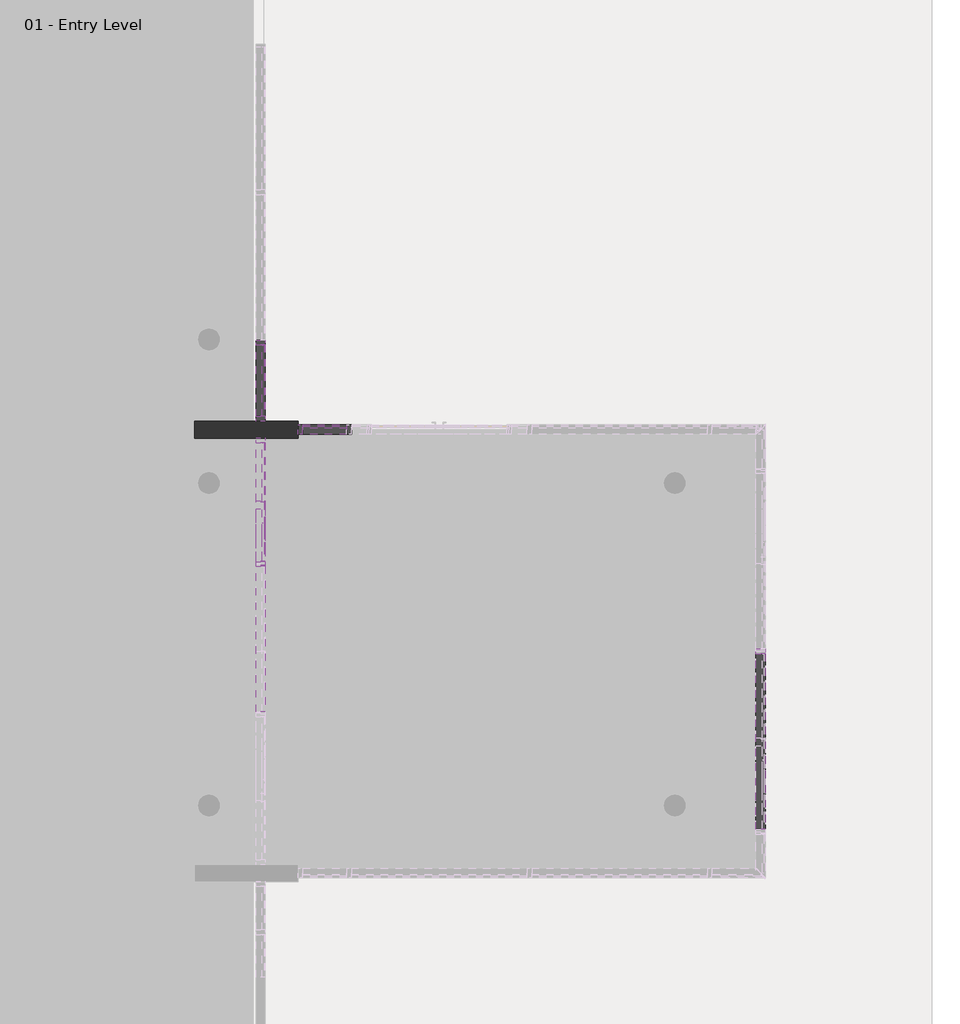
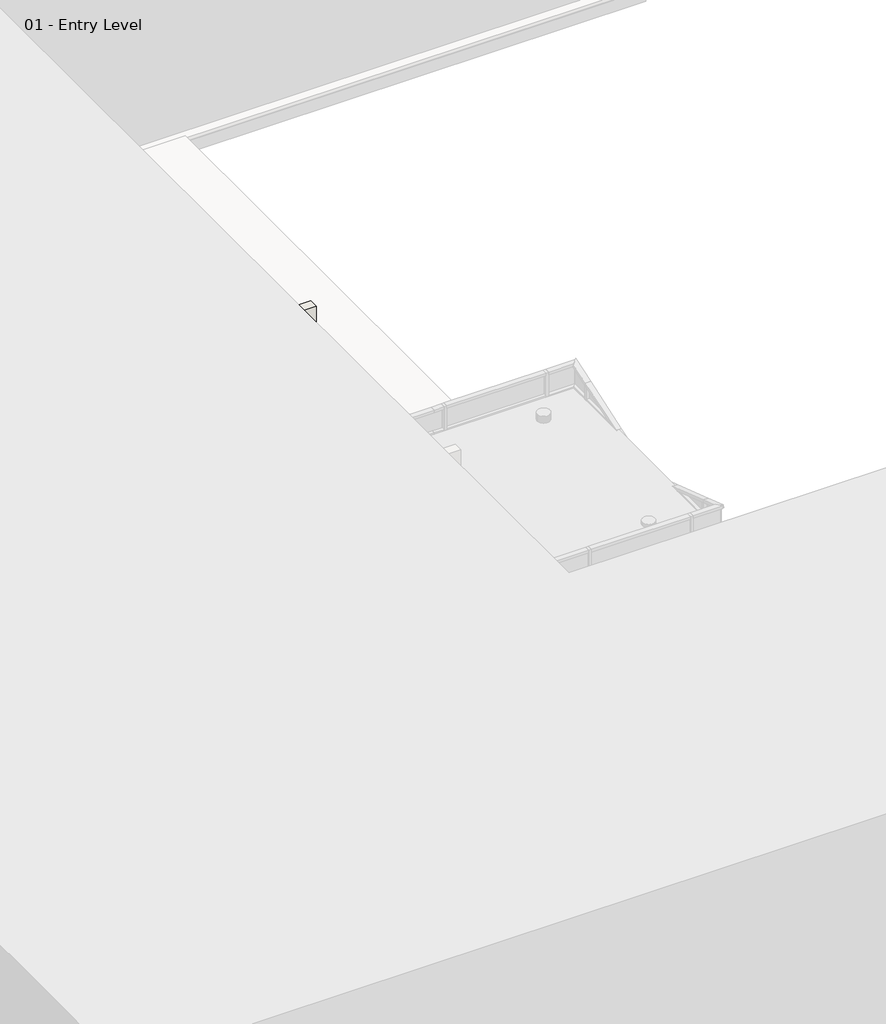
# One storey, part 15 of 35: 95 members, 25 plates, 1 wall.
"""IFC4 building model written with IfcOpenShell, lengths in millimetres."""

from ifc_helpers import new_model, si_unit, origin, origin_with_axes, place, context, project, spatial, polyline, outline, extrude, transform, mapped, element, save
from components import member_2b49869a, member_75074519, member_391b434c, member_9e90ae50, member_6f7cbf6b, member_280eb951, member_97732064, member_4efea63f, member_b0570460, member_a66a3142, member_c840947a, member_9193c932, member_18e22e2d, member_6e77e263, member_47bfaf8a, member_89bfb2f9, member_f4359540, member_5aa65f11, member_b5354135, member_c327c56d, member_2eb7018d, member_80bb9b3a, member_02b8d6b6, system_panel_glazed_f9d9f547, system_panel_glazed_3c16f4b8, system_panel_glazed_f6fca0b1, system_panel_glazed_f30ba6ae, system_panel_glazed_bfb2913e, system_panel_glazed_9f006979, system_panel_glazed_0805a858, system_panel_glazed_439dd39a, system_panel_glazed_65392b54

model = new_model("IFC4")

# Units and contexts
model_context = context("Model", 3, world=origin())
ifc_project = project(units=[si_unit("LENGTHUNIT", "METRE", prefix="MILLI")], contexts=[model_context])

# Site, building, storey
site = spatial("IfcSite", under=ifc_project)
building = spatial("IfcBuilding", under=site)
storey = spatial("IfcBuildingStorey", under=building, Name="01 - Entry Level", Elevation=0.0)

# Members
placement = place(None, origin())
member_shape = member_2b49869a(model_context)
element("IfcMember", 1, ObjectType="Rectangular Mullion : 2.5\" x 5\" rectangular", at=placement, inside=storey, context=model_context, shape_type="MappedRepresentation", body=[
    mapped(member_shape, transform((17184.0207476, 23720.35, 9753.6), x_axis=(0.0, 1.0, 0.0), y_axis=(1.0, 0.0, 0.0), z_axis=(0.0, 0.0, -1.0))),
])
element("IfcMember", 2, ObjectType="Rectangular Mullion : 2.5\" x 5\" rectangular", at=placement, inside=storey, context=model_context, shape_type="MappedRepresentation", body=[
    mapped(member_shape, transform((17184.0207476, 20729.5, 9753.6), x_axis=(0.0, 1.0, 0.0), y_axis=(1.0, 0.0, 0.0), z_axis=(0.0, 0.0, -1.0))),
])
member_2_shape = member_75074519(model_context)
element("IfcMember", 3, ObjectType="Rectangular Mullion : 2.5\" x 5\" rectangular", at=placement, inside=storey, context=model_context, shape_type="MappedRepresentation", body=[
    mapped(member_2_shape, transform((17184.0207476, 22659.9, 10972.8), x_axis=(0.0, -1.0, 0.0), y_axis=(1.0, 0.0, 0.0), z_axis=(0.0, 0.0, 1.0))),
])
element("IfcMember", 4, ObjectType="Rectangular Mullion : 2.5\" x 5\" rectangular", at=placement, inside=storey, context=model_context, shape_type="MappedRepresentation", body=[
    mapped(member_2_shape, transform((17184.0207476, 22431.3, 9753.6), x_axis=(0.0, 1.0, 0.0), y_axis=(1.0, 0.0, 0.0), z_axis=(0.0, 0.0, -1.0))),
])
member_3_shape = member_391b434c(model_context)
element("IfcMember", 5, ObjectType="Rectangular Mullion : 2.5\" x 5\" rectangular", at=placement, inside=storey, context=model_context, shape_type="MappedRepresentation", body=[
    mapped(member_3_shape, transform((17184.0207476, 20697.75, 10972.8), x_axis=(0.0, 0.0, 1.0), y_axis=(1.0, 0.0, 0.0), z_axis=(0.0, 1.0, 0.0))),
])
element("IfcMember", 6, ObjectType="Rectangular Mullion : 2.5\" x 5\" rectangular", at=placement, inside=storey, context=model_context, shape_type="MappedRepresentation", body=[
    mapped(member_3_shape, transform((17184.0207476, 23752.1, 0.0), x_axis=(0.0, 0.0, -1.0), y_axis=(1.0, 0.0, 0.0), z_axis=(0.0, -1.0, 0.0))),
])
member_4_shape = member_9e90ae50(model_context)
element("IfcMember", 7, ObjectType="Rectangular Mullion : 2.5\" x 5\" rectangular", at=placement, inside=storey, context=model_context, shape_type="MappedRepresentation", body=[
    mapped(member_4_shape, transform((17184.0207476, 20697.75, 7315.2), x_axis=(0.0, 0.0, 1.0), y_axis=(1.0, 0.0, 0.0), z_axis=(0.0, 1.0, 0.0))),
])
element("IfcMember", 8, ObjectType="Rectangular Mullion : 2.5\" x 5\" rectangular", at=placement, inside=storey, context=model_context, shape_type="MappedRepresentation", body=[
    mapped(member_4_shape, transform((17184.0207476, 20697.75, 8534.4), x_axis=(0.0, 0.0, 1.0), y_axis=(1.0, 0.0, 0.0), z_axis=(0.0, 1.0, 0.0))),
])
element("IfcMember", 9, ObjectType="Rectangular Mullion : 2.5\" x 5\" rectangular", at=placement, inside=storey, context=model_context, shape_type="MappedRepresentation", body=[
    mapped(member_4_shape, transform((17184.0207476, 20697.75, 9753.6), x_axis=(0.0, 0.0, 1.0), y_axis=(1.0, 0.0, 0.0), z_axis=(0.0, 1.0, 0.0))),
])
element("IfcMember", 10, ObjectType="Rectangular Mullion : 2.5\" x 5\" rectangular", at=placement, inside=storey, context=model_context, shape_type="MappedRepresentation", body=[
    mapped(member_shape, transform((17184.0207476, 23720.35, 0.0), x_axis=(0.0, 1.0, 0.0), y_axis=(1.0, 0.0, 0.0), z_axis=(0.0, 0.0, -1.0))),
])
element("IfcMember", 11, ObjectType="Rectangular Mullion : 2.5\" x 5\" rectangular", at=placement, inside=storey, context=model_context, shape_type="MappedRepresentation", body=[
    mapped(member_shape, transform((17184.0207476, 23720.35, 1219.2), x_axis=(0.0, 1.0, 0.0), y_axis=(1.0, 0.0, 0.0), z_axis=(0.0, 0.0, -1.0))),
])
element("IfcMember", 12, ObjectType="Rectangular Mullion : 2.5\" x 5\" rectangular", at=placement, inside=storey, context=model_context, shape_type="MappedRepresentation", body=[
    mapped(member_shape, transform((17184.0207476, 23720.35, 2438.4), x_axis=(0.0, 1.0, 0.0), y_axis=(1.0, 0.0, 0.0), z_axis=(0.0, 0.0, -1.0))),
])
element("IfcMember", 13, ObjectType="Rectangular Mullion : 2.5\" x 5\" rectangular", at=placement, inside=storey, context=model_context, shape_type="MappedRepresentation", body=[
    mapped(member_shape, transform((17184.0207476, 23720.35, 3657.6), x_axis=(0.0, 1.0, 0.0), y_axis=(1.0, 0.0, 0.0), z_axis=(0.0, 0.0, -1.0))),
])
element("IfcMember", 14, ObjectType="Rectangular Mullion : 2.5\" x 5\" rectangular", at=placement, inside=storey, context=model_context, shape_type="MappedRepresentation", body=[
    mapped(member_shape, transform((17184.0207476, 23720.35, 4876.8), x_axis=(0.0, 1.0, 0.0), y_axis=(1.0, 0.0, 0.0), z_axis=(0.0, 0.0, -1.0))),
])
element("IfcMember", 15, ObjectType="Rectangular Mullion : 2.5\" x 5\" rectangular", at=placement, inside=storey, context=model_context, shape_type="MappedRepresentation", body=[
    mapped(member_shape, transform((17184.0207476, 23720.35, 6096.0), x_axis=(0.0, 1.0, 0.0), y_axis=(1.0, 0.0, 0.0), z_axis=(0.0, 0.0, -1.0))),
])
element("IfcMember", 16, ObjectType="Rectangular Mullion : 2.5\" x 5\" rectangular", at=placement, inside=storey, context=model_context, shape_type="MappedRepresentation", body=[
    mapped(member_shape, transform((17184.0207476, 23720.35, 7315.2), x_axis=(0.0, 1.0, 0.0), y_axis=(1.0, 0.0, 0.0), z_axis=(0.0, 0.0, -1.0))),
])
element("IfcMember", 17, ObjectType="Rectangular Mullion : 2.5\" x 5\" rectangular", at=placement, inside=storey, context=model_context, shape_type="MappedRepresentation", body=[
    mapped(member_shape, transform((17184.0207476, 23720.35, 8534.4), x_axis=(0.0, 1.0, 0.0), y_axis=(1.0, 0.0, 0.0), z_axis=(0.0, 0.0, -1.0))),
])
element("IfcMember", 18, ObjectType="Rectangular Mullion : 2.5\" x 5\" rectangular", at=placement, inside=storey, context=model_context, shape_type="MappedRepresentation", body=[
    mapped(member_shape, transform((17184.0207476, 20729.5, 7315.2), x_axis=(0.0, 1.0, 0.0), y_axis=(1.0, 0.0, 0.0), z_axis=(0.0, 0.0, -1.0))),
])
element("IfcMember", 19, ObjectType="Rectangular Mullion : 2.5\" x 5\" rectangular", at=placement, inside=storey, context=model_context, shape_type="MappedRepresentation", body=[
    mapped(member_shape, transform((17184.0207476, 20729.5, 8534.4), x_axis=(0.0, 1.0, 0.0), y_axis=(1.0, 0.0, 0.0), z_axis=(0.0, 0.0, -1.0))),
])
member_5_shape = member_6f7cbf6b(model_context)
element("IfcMember", 20, ObjectType="Rectangular Mullion : 2.5\" x 5\" rectangular", at=placement, inside=storey, context=model_context, shape_type="MappedRepresentation", body=[
    mapped(member_5_shape, transform((17184.0207476, 22367.8, 10972.8), x_axis=(0.0, 0.0, 1.0), y_axis=(1.0, 0.0, 0.0), z_axis=(0.0, 1.0, 0.0))),
])
member_6_shape = member_280eb951(model_context)
element("IfcMember", 21, ObjectType="Rectangular Mullion : 2.5\" x 5\" rectangular", at=placement, inside=storey, context=model_context, shape_type="MappedRepresentation", body=[
    mapped(member_6_shape, transform((17184.0207476, 20729.5, 7031.1207436), x_axis=(0.0, 0.31622776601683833, -0.9486832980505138), y_axis=(1.0, 0.0, 0.0), z_axis=(0.0, -0.9486832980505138, -0.31622776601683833))),
])
member_7_shape = member_97732064(model_context)
element("IfcMember", 22, ObjectType="Rectangular Mullion : 2.5\" x 5\" rectangular", at=placement, inside=storey, context=model_context, shape_type="MappedRepresentation", body=[
    mapped(member_7_shape, transform((17184.0207476, 21581.7377692, 7315.2), x_axis=(0.0, 0.3162277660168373, -0.9486832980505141), y_axis=(1.0, 0.0, 0.0), z_axis=(0.0, -0.948683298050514, -0.3162277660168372))),
])
member_8_shape = member_4efea63f(model_context)
element("IfcMember", 23, ObjectType="Rectangular Mullion : 2.5\" x 5\" rectangular", at=placement, inside=storey, context=model_context, shape_type="MappedRepresentation", body=[
    mapped(member_8_shape, transform((17184.0207476, 21581.7377692, 7315.2), x_axis=(0.0, 0.0, 1.0), y_axis=(1.0, 0.0, 0.0), z_axis=(0.0, 1.0, 0.0))),
])
member_9_shape = member_b0570460(model_context)
element("IfcMember", 24, ObjectType="Rectangular Mullion : 2.5\" x 5\" rectangular", at=placement, inside=storey, context=model_context, shape_type="MappedRepresentation", body=[
    mapped(member_9_shape, transform((17184.0207476, 22367.8, 8534.4), x_axis=(0.0, 0.0, 1.0), y_axis=(1.0, 0.0, 0.0), z_axis=(0.0, 1.0, 0.0))),
])
element("IfcMember", 25, ObjectType="Rectangular Mullion : 2.5\" x 5\" rectangular", at=placement, inside=storey, context=model_context, shape_type="MappedRepresentation", body=[
    mapped(member_9_shape, transform((17184.0207476, 22367.8, 9753.6), x_axis=(0.0, 0.0, 1.0), y_axis=(1.0, 0.0, 0.0), z_axis=(0.0, 1.0, 0.0))),
])
member_10_shape = member_a66a3142(model_context)
element("IfcMember", 26, ObjectType="Rectangular Mullion : 2.5\" x 5\" rectangular", at=placement, inside=storey, context=model_context, shape_type="MappedRepresentation", body=[
    mapped(member_10_shape, transform((17184.0207476, 20729.5, 7031.1207436), x_axis=(0.0, 1.0, 0.0), y_axis=(1.0, 0.0, 0.0), z_axis=(0.0, 0.0, -1.0))),
])
member_11_shape = member_c840947a(model_context)
element("IfcMember", 27, ObjectType="Rectangular Mullion : 2.5\" x 5\" rectangular", at=placement, inside=storey, context=model_context, shape_type="MappedRepresentation", body=[
    mapped(member_11_shape, transform((17184.0207476, 22431.3, 7598.3874103), x_axis=(0.0, 1.0, 0.0), y_axis=(1.0, 0.0, 0.0), z_axis=(0.0, 0.0, -1.0))),
])
element("IfcMember", 28, ObjectType="Rectangular Mullion : 2.5\" x 5\" rectangular", at=placement, inside=storey, context=model_context, shape_type="MappedRepresentation", body=[
    mapped(member_2_shape, transform((17184.0207476, 22431.3, 8534.4), x_axis=(0.0, 1.0, 0.0), y_axis=(1.0, 0.0, 0.0), z_axis=(0.0, 0.0, -1.0))),
])
element("IfcMember", 29, ObjectType="Rectangular Mullion : 2.5\" x 5\" rectangular", at=placement, inside=storey, context=model_context, shape_type="MappedRepresentation", body=[
    mapped(member_2_shape, transform((17184.0207476, 22659.9, 1219.2), x_axis=(0.0, -1.0, 0.0), y_axis=(1.0, 0.0, 0.0), z_axis=(0.0, 0.0, 1.0))),
])
element("IfcMember", 30, ObjectType="Rectangular Mullion : 2.5\" x 5\" rectangular", at=placement, inside=storey, context=model_context, shape_type="MappedRepresentation", body=[
    mapped(member_2_shape, transform((17184.0207476, 22659.9, 2438.4), x_axis=(0.0, -1.0, 0.0), y_axis=(1.0, 0.0, 0.0), z_axis=(0.0, 0.0, 1.0))),
])
element("IfcMember", 31, ObjectType="Rectangular Mullion : 2.5\" x 5\" rectangular", at=placement, inside=storey, context=model_context, shape_type="MappedRepresentation", body=[
    mapped(member_2_shape, transform((17184.0207476, 22659.9, 3657.6), x_axis=(0.0, -1.0, 0.0), y_axis=(1.0, 0.0, 0.0), z_axis=(0.0, 0.0, 1.0))),
])
element("IfcMember", 32, ObjectType="Rectangular Mullion : 2.5\" x 5\" rectangular", at=placement, inside=storey, context=model_context, shape_type="MappedRepresentation", body=[
    mapped(member_2_shape, transform((17184.0207476, 22659.9, 4876.8), x_axis=(0.0, -1.0, 0.0), y_axis=(1.0, 0.0, 0.0), z_axis=(0.0, 0.0, 1.0))),
])
element("IfcMember", 33, ObjectType="Rectangular Mullion : 2.5\" x 5\" rectangular", at=placement, inside=storey, context=model_context, shape_type="MappedRepresentation", body=[
    mapped(member_2_shape, transform((17184.0207476, 22659.9, 6096.0), x_axis=(0.0, -1.0, 0.0), y_axis=(1.0, 0.0, 0.0), z_axis=(0.0, 0.0, 1.0))),
])
element("IfcMember", 34, ObjectType="Rectangular Mullion : 2.5\" x 5\" rectangular", at=placement, inside=storey, context=model_context, shape_type="MappedRepresentation", body=[
    mapped(member_2_shape, transform((17184.0207476, 22659.9, 7315.2), x_axis=(0.0, -1.0, 0.0), y_axis=(1.0, 0.0, 0.0), z_axis=(0.0, 0.0, 1.0))),
])
element("IfcMember", 35, ObjectType="Rectangular Mullion : 2.5\" x 5\" rectangular", at=placement, inside=storey, context=model_context, shape_type="MappedRepresentation", body=[
    mapped(member_2_shape, transform((17184.0207476, 22659.9, 8534.4), x_axis=(0.0, -1.0, 0.0), y_axis=(1.0, 0.0, 0.0), z_axis=(0.0, 0.0, 1.0))),
])
element("IfcMember", 36, ObjectType="Rectangular Mullion : 2.5\" x 5\" rectangular", at=placement, inside=storey, context=model_context, shape_type="MappedRepresentation", body=[
    mapped(member_2_shape, transform((17184.0207476, 22659.9, 9753.6), x_axis=(0.0, -1.0, 0.0), y_axis=(1.0, 0.0, 0.0), z_axis=(0.0, 0.0, 1.0))),
])
member_12_shape = member_9193c932(model_context)
element("IfcMember", 37, ObjectType="Rectangular Mullion : 2.5\" x 5\" rectangular", at=placement, inside=storey, context=model_context, shape_type="MappedRepresentation", body=[
    mapped(member_12_shape, transform((17184.0207476, 23688.6, 10972.8), x_axis=(0.0, 0.0, 1.0), y_axis=(1.0, 0.0, 0.0), z_axis=(0.0, 1.0, 0.0))),
])
element("IfcMember", 38, ObjectType="Rectangular Mullion : 2.5\" x 5\" rectangular", at=placement, inside=storey, context=model_context, shape_type="MappedRepresentation", body=[
    mapped(member_12_shape, transform((17184.0207476, 22723.4, 0.0), x_axis=(0.0, 0.0, -1.0), y_axis=(1.0, 0.0, 0.0), z_axis=(0.0, -1.0, 0.0))),
])
member_13_shape = member_18e22e2d(model_context)
element("IfcMember", 39, ObjectType="Rectangular Mullion : 2.5\" x 5\" rectangular", at=placement, inside=storey, context=model_context, shape_type="MappedRepresentation", body=[
    mapped(member_13_shape, transform((17184.0207476, 23688.6, 1219.2), x_axis=(0.0, 0.0, 1.0), y_axis=(1.0, 0.0, 0.0), z_axis=(0.0, 1.0, 0.0))),
])
element("IfcMember", 40, ObjectType="Rectangular Mullion : 2.5\" x 5\" rectangular", at=placement, inside=storey, context=model_context, shape_type="MappedRepresentation", body=[
    mapped(member_13_shape, transform((17184.0207476, 23688.6, 2438.4), x_axis=(0.0, 0.0, 1.0), y_axis=(1.0, 0.0, 0.0), z_axis=(0.0, 1.0, 0.0))),
])
element("IfcMember", 41, ObjectType="Rectangular Mullion : 2.5\" x 5\" rectangular", at=placement, inside=storey, context=model_context, shape_type="MappedRepresentation", body=[
    mapped(member_13_shape, transform((17184.0207476, 23688.6, 3657.6), x_axis=(0.0, 0.0, 1.0), y_axis=(1.0, 0.0, 0.0), z_axis=(0.0, 1.0, 0.0))),
])
element("IfcMember", 42, ObjectType="Rectangular Mullion : 2.5\" x 5\" rectangular", at=placement, inside=storey, context=model_context, shape_type="MappedRepresentation", body=[
    mapped(member_13_shape, transform((17184.0207476, 23688.6, 4876.8), x_axis=(0.0, 0.0, 1.0), y_axis=(1.0, 0.0, 0.0), z_axis=(0.0, 1.0, 0.0))),
])
element("IfcMember", 43, ObjectType="Rectangular Mullion : 2.5\" x 5\" rectangular", at=placement, inside=storey, context=model_context, shape_type="MappedRepresentation", body=[
    mapped(member_13_shape, transform((17184.0207476, 23688.6, 6096.0), x_axis=(0.0, 0.0, 1.0), y_axis=(1.0, 0.0, 0.0), z_axis=(0.0, 1.0, 0.0))),
])
element("IfcMember", 44, ObjectType="Rectangular Mullion : 2.5\" x 5\" rectangular", at=placement, inside=storey, context=model_context, shape_type="MappedRepresentation", body=[
    mapped(member_13_shape, transform((17184.0207476, 23688.6, 7315.2), x_axis=(0.0, 0.0, 1.0), y_axis=(1.0, 0.0, 0.0), z_axis=(0.0, 1.0, 0.0))),
])
element("IfcMember", 45, ObjectType="Rectangular Mullion : 2.5\" x 5\" rectangular", at=placement, inside=storey, context=model_context, shape_type="MappedRepresentation", body=[
    mapped(member_13_shape, transform((17184.0207476, 23688.6, 8534.4), x_axis=(0.0, 0.0, 1.0), y_axis=(1.0, 0.0, 0.0), z_axis=(0.0, 1.0, 0.0))),
])
element("IfcMember", 46, ObjectType="Rectangular Mullion : 2.5\" x 5\" rectangular", at=placement, inside=storey, context=model_context, shape_type="MappedRepresentation", body=[
    mapped(member_13_shape, transform((17184.0207476, 23688.6, 9753.6), x_axis=(0.0, 0.0, 1.0), y_axis=(1.0, 0.0, 0.0), z_axis=(0.0, 1.0, 0.0))),
])
member_14_shape = member_6e77e263(model_context)
element("IfcMember", 47, ObjectType="Rectangular Mullion : 2.5\" x 5\" rectangular", at=placement, inside=storey, context=model_context, shape_type="MappedRepresentation", body=[
    mapped(member_14_shape, transform((18379.5615197, 22545.6, 0.0), x_axis=(-1.0, 0.0, 0.0), y_axis=(0.0, 1.0, 0.0), z_axis=(0.0, 0.0, -1.0))),
])
element("IfcMember", 48, ObjectType="Rectangular Mullion : 2.5\" x 5\" rectangular", at=placement, inside=storey, context=model_context, shape_type="MappedRepresentation", body=[
    mapped(member_14_shape, transform((18379.5615197, 22545.6, 609.6), x_axis=(-1.0, 0.0, 0.0), y_axis=(0.0, 1.0, 0.0), z_axis=(0.0, 0.0, -1.0))),
])
element("IfcMember", 49, ObjectType="Rectangular Mullion : 2.5\" x 5\" rectangular", at=placement, inside=storey, context=model_context, shape_type="MappedRepresentation", body=[
    mapped(member_14_shape, transform((18379.5615197, 22545.6, 1219.2), x_axis=(-1.0, 0.0, 0.0), y_axis=(0.0, 1.0, 0.0), z_axis=(0.0, 0.0, -1.0))),
])
element("IfcMember", 50, ObjectType="Rectangular Mullion : 2.5\" x 5\" rectangular", at=placement, inside=storey, context=model_context, shape_type="MappedRepresentation", body=[
    mapped(member_14_shape, transform((18379.5615197, 22545.6, 2438.4), x_axis=(-1.0, 0.0, 0.0), y_axis=(0.0, 1.0, 0.0), z_axis=(0.0, 0.0, -1.0))),
])
element("IfcMember", 51, ObjectType="Rectangular Mullion : 2.5\" x 5\" rectangular", at=placement, inside=storey, context=model_context, shape_type="MappedRepresentation", body=[
    mapped(member_14_shape, transform((18379.5615197, 22545.6, 3048.0), x_axis=(-1.0, 0.0, 0.0), y_axis=(0.0, 1.0, 0.0), z_axis=(0.0, 0.0, -1.0))),
])
element("IfcMember", 52, ObjectType="Rectangular Mullion : 2.5\" x 5\" rectangular", at=placement, inside=storey, context=model_context, shape_type="MappedRepresentation", body=[
    mapped(member_14_shape, transform((23947.0115197, 19548.4, 3657.6), x_axis=(0.0, 1.0, 0.0), y_axis=(1.0, 0.0, 0.0), z_axis=(0.0, 0.0, -1.0))),
])
element("IfcMember", 53, ObjectType="Rectangular Mullion : 2.5\" x 5\" rectangular", at=placement, inside=storey, context=model_context, shape_type="MappedRepresentation", body=[
    mapped(member_14_shape, transform((23947.0115197, 19548.4, 4267.2), x_axis=(0.0, 1.0, 0.0), y_axis=(1.0, 0.0, 0.0), z_axis=(0.0, 0.0, -1.0))),
])
element("IfcMember", 54, ObjectType="Rectangular Mullion : 2.5\" x 5\" rectangular", at=placement, inside=storey, context=model_context, shape_type="MappedRepresentation", body=[
    mapped(member_14_shape, transform((23947.0115197, 19548.4, 4876.8), x_axis=(0.0, 1.0, 0.0), y_axis=(1.0, 0.0, 0.0), z_axis=(0.0, 0.0, -1.0))),
])
element("IfcMember", 55, ObjectType="Rectangular Mullion : 2.5\" x 5\" rectangular", at=placement, inside=storey, context=model_context, shape_type="MappedRepresentation", body=[
    mapped(member_14_shape, transform((23947.0115197, 19548.4, 5486.4), x_axis=(0.0, 1.0, 0.0), y_axis=(1.0, 0.0, 0.0), z_axis=(0.0, 0.0, -1.0))),
])
element("IfcMember", 56, ObjectType="Rectangular Mullion : 2.5\" x 5\" rectangular", at=placement, inside=storey, context=model_context, shape_type="MappedRepresentation", body=[
    mapped(member_14_shape, transform((18379.5615197, 22545.6, 3657.6), x_axis=(-1.0, 0.0, 0.0), y_axis=(0.0, 1.0, 0.0), z_axis=(0.0, 0.0, -1.0))),
])
member_15_shape = member_47bfaf8a(model_context)
element("IfcMember", 57, ObjectType="Rectangular Mullion : 2.5\" x 5\" rectangular", at=placement, inside=storey, context=model_context, shape_type="MappedRepresentation", body=[
    mapped(member_15_shape, transform((17688.9115197, 22545.6, 0.0), x_axis=(-1.0, 0.0, 0.0), y_axis=(0.0, 1.0, 0.0), z_axis=(0.0, 0.0, -1.0))),
])
element("IfcMember", 58, ObjectType="Rectangular Mullion : 2.5\" x 5\" rectangular", at=placement, inside=storey, context=model_context, shape_type="MappedRepresentation", body=[
    mapped(member_15_shape, transform((17688.9115197, 22545.6, 609.6), x_axis=(-1.0, 0.0, 0.0), y_axis=(0.0, 1.0, 0.0), z_axis=(0.0, 0.0, -1.0))),
])
element("IfcMember", 59, ObjectType="Rectangular Mullion : 2.5\" x 5\" rectangular", at=placement, inside=storey, context=model_context, shape_type="MappedRepresentation", body=[
    mapped(member_15_shape, transform((17688.9115197, 22545.6, 1219.2), x_axis=(-1.0, 0.0, 0.0), y_axis=(0.0, 1.0, 0.0), z_axis=(0.0, 0.0, -1.0))),
])
element("IfcMember", 60, ObjectType="Rectangular Mullion : 2.5\" x 5\" rectangular", at=placement, inside=storey, context=model_context, shape_type="MappedRepresentation", body=[
    mapped(member_15_shape, transform((17688.9115197, 22545.6, 2438.4), x_axis=(-1.0, 0.0, 0.0), y_axis=(0.0, 1.0, 0.0), z_axis=(0.0, 0.0, -1.0))),
])
element("IfcMember", 61, ObjectType="Rectangular Mullion : 2.5\" x 5\" rectangular", at=placement, inside=storey, context=model_context, shape_type="MappedRepresentation", body=[
    mapped(member_15_shape, transform((17688.9115197, 22545.6, 3048.0), x_axis=(-1.0, 0.0, 0.0), y_axis=(0.0, 1.0, 0.0), z_axis=(0.0, 0.0, -1.0))),
])
element("IfcMember", 62, ObjectType="Rectangular Mullion : 2.5\" x 5\" rectangular", at=placement, inside=storey, context=model_context, shape_type="MappedRepresentation", body=[
    mapped(member_15_shape, transform((17688.9115197, 22545.6, 3657.6), x_axis=(-1.0, 0.0, 0.0), y_axis=(0.0, 1.0, 0.0), z_axis=(0.0, 0.0, -1.0))),
])
element("IfcMember", 63, ObjectType="Rectangular Mullion : 2.5\" x 5\" rectangular", at=placement, inside=storey, context=model_context, shape_type="MappedRepresentation", body=[
    mapped(member_15_shape, transform((17688.9115197, 22545.6, 4267.2), x_axis=(-1.0, 0.0, 0.0), y_axis=(0.0, 1.0, 0.0), z_axis=(0.0, 0.0, -1.0))),
])
element("IfcMember", 64, ObjectType="Rectangular Mullion : 2.5\" x 5\" rectangular", at=placement, inside=storey, context=model_context, shape_type="MappedRepresentation", body=[
    mapped(member_15_shape, transform((17688.9115197, 22545.6, 4876.8), x_axis=(-1.0, 0.0, 0.0), y_axis=(0.0, 1.0, 0.0), z_axis=(0.0, 0.0, -1.0))),
])
element("IfcMember", 65, ObjectType="Rectangular Mullion : 2.5\" x 5\" rectangular", at=placement, inside=storey, context=model_context, shape_type="MappedRepresentation", body=[
    mapped(member_15_shape, transform((17688.9115197, 22545.6, 5486.4), x_axis=(-1.0, 0.0, 0.0), y_axis=(0.0, 1.0, 0.0), z_axis=(0.0, 0.0, -1.0))),
])
element("IfcMember", 66, ObjectType="Rectangular Mullion : 2.5\" x 5\" rectangular", at=placement, inside=storey, context=model_context, shape_type="MappedRepresentation", body=[
    mapped(member_15_shape, transform((17688.9115197, 22545.6, 6096.0), x_axis=(-1.0, 0.0, 0.0), y_axis=(0.0, 1.0, 0.0), z_axis=(0.0, 0.0, -1.0))),
])
member_16_shape = member_89bfb2f9(model_context)
element("IfcMember", 67, ObjectType="Rectangular Mullion : 2.5\" x 5\" rectangular", at=placement, inside=storey, context=model_context, shape_type="MappedRepresentation", body=[
    mapped(member_16_shape, transform((23947.0115197, 19516.65, 609.6), x_axis=(0.0, 0.0, 1.0), y_axis=(1.0, 0.0, 0.0), z_axis=(0.0, 1.0, 0.0))),
])
element("IfcMember", 68, ObjectType="Rectangular Mullion : 2.5\" x 5\" rectangular", at=placement, inside=storey, context=model_context, shape_type="MappedRepresentation", body=[
    mapped(member_16_shape, transform((23947.0115197, 19516.65, 1219.2), x_axis=(0.0, 0.0, 1.0), y_axis=(1.0, 0.0, 0.0), z_axis=(0.0, 1.0, 0.0))),
])
element("IfcMember", 69, ObjectType="Rectangular Mullion : 2.5\" x 5\" rectangular", at=placement, inside=storey, context=model_context, shape_type="MappedRepresentation", body=[
    mapped(member_16_shape, transform((23947.0115197, 19516.65, 1828.8), x_axis=(0.0, 0.0, 1.0), y_axis=(1.0, 0.0, 0.0), z_axis=(0.0, 1.0, 0.0))),
])
element("IfcMember", 70, ObjectType="Rectangular Mullion : 2.5\" x 5\" rectangular", at=placement, inside=storey, context=model_context, shape_type="MappedRepresentation", body=[
    mapped(member_16_shape, transform((23947.0115197, 19516.65, 2438.4), x_axis=(0.0, 0.0, 1.0), y_axis=(1.0, 0.0, 0.0), z_axis=(0.0, 1.0, 0.0))),
])
element("IfcMember", 71, ObjectType="Rectangular Mullion : 2.5\" x 5\" rectangular", at=placement, inside=storey, context=model_context, shape_type="MappedRepresentation", body=[
    mapped(member_16_shape, transform((23947.0115197, 19516.65, 3048.0), x_axis=(0.0, 0.0, 1.0), y_axis=(1.0, 0.0, 0.0), z_axis=(0.0, 1.0, 0.0))),
])
element("IfcMember", 72, ObjectType="Rectangular Mullion : 2.5\" x 5\" rectangular", at=placement, inside=storey, context=model_context, shape_type="MappedRepresentation", body=[
    mapped(member_16_shape, transform((23947.0115197, 19516.65, 3657.6), x_axis=(0.0, 0.0, 1.0), y_axis=(1.0, 0.0, 0.0), z_axis=(0.0, 1.0, 0.0))),
])
element("IfcMember", 73, ObjectType="Rectangular Mullion : 2.5\" x 5\" rectangular", at=placement, inside=storey, context=model_context, shape_type="MappedRepresentation", body=[
    mapped(member_16_shape, transform((23947.0115197, 19516.65, 4267.2), x_axis=(0.0, 0.0, 1.0), y_axis=(1.0, 0.0, 0.0), z_axis=(0.0, 1.0, 0.0))),
])
element("IfcMember", 74, ObjectType="Rectangular Mullion : 2.5\" x 5\" rectangular", at=placement, inside=storey, context=model_context, shape_type="MappedRepresentation", body=[
    mapped(member_16_shape, transform((23947.0115197, 19516.65, 4876.8), x_axis=(0.0, 0.0, 1.0), y_axis=(1.0, 0.0, 0.0), z_axis=(0.0, 1.0, 0.0))),
])
element("IfcMember", 75, ObjectType="Rectangular Mullion : 2.5\" x 5\" rectangular", at=placement, inside=storey, context=model_context, shape_type="MappedRepresentation", body=[
    mapped(member_16_shape, transform((23947.0115197, 19516.65, 5486.4), x_axis=(0.0, 0.0, 1.0), y_axis=(1.0, 0.0, 0.0), z_axis=(0.0, 1.0, 0.0))),
])
element("IfcMember", 76, ObjectType="Rectangular Mullion : 2.5\" x 5\" rectangular", at=placement, inside=storey, context=model_context, shape_type="MappedRepresentation", body=[
    mapped(member_16_shape, transform((23947.0115197, 19516.65, 6096.0), x_axis=(0.0, 0.0, 1.0), y_axis=(1.0, 0.0, 0.0), z_axis=(0.0, 1.0, 0.0))),
])
member_17_shape = member_f4359540(model_context)
element("IfcMember", 77, ObjectType="Rectangular Mullion : 2.5\" x 5\" rectangular", at=placement, inside=storey, context=model_context, shape_type="MappedRepresentation", body=[
    mapped(member_17_shape, transform((23947.0115197, 19548.4, 6096.0), x_axis=(0.0, 1.0, 0.0), y_axis=(1.0, 0.0, 0.0), z_axis=(0.0, 0.0, -1.0))),
])
member_18_shape = member_5aa65f11(model_context)
element("IfcMember", 78, ObjectType="Rectangular Mullion : 2.5\" x 5\" rectangular", at=placement, inside=storey, context=model_context, shape_type="MappedRepresentation", body=[
    mapped(member_18_shape, transform((17752.4115197, 22545.6, 7315.2), x_axis=(0.0, 0.0, 1.0), y_axis=(0.0, 1.0, 0.0), z_axis=(-1.0, 0.0, 0.0))),
])
element("IfcMember", 79, ObjectType="Rectangular Mullion : 2.5\" x 5\" rectangular", at=placement, inside=storey, context=model_context, shape_type="MappedRepresentation", body=[
    mapped(member_18_shape, transform((18347.8115197, 22545.6, 0.0), x_axis=(0.0, 0.0, -1.0), y_axis=(0.0, 1.0, 0.0), z_axis=(1.0, 0.0, 0.0))),
])
member_19_shape = member_b5354135(model_context)
element("IfcMember", 80, ObjectType="Rectangular Mullion : 2.5\" x 5\" rectangular", at=placement, inside=storey, context=model_context, shape_type="MappedRepresentation", body=[
    mapped(member_19_shape, transform((17752.4115197, 22545.6, 609.6), x_axis=(0.0, 0.0, 1.0), y_axis=(0.0, 1.0, 0.0), z_axis=(-1.0, 0.0, 0.0))),
])
element("IfcMember", 81, ObjectType="Rectangular Mullion : 2.5\" x 5\" rectangular", at=placement, inside=storey, context=model_context, shape_type="MappedRepresentation", body=[
    mapped(member_19_shape, transform((17752.4115197, 22545.6, 1219.2), x_axis=(0.0, 0.0, 1.0), y_axis=(0.0, 1.0, 0.0), z_axis=(-1.0, 0.0, 0.0))),
])
element("IfcMember", 82, ObjectType="Rectangular Mullion : 2.5\" x 5\" rectangular", at=placement, inside=storey, context=model_context, shape_type="MappedRepresentation", body=[
    mapped(member_19_shape, transform((17752.4115197, 22545.6, 1828.8), x_axis=(0.0, 0.0, 1.0), y_axis=(0.0, 1.0, 0.0), z_axis=(-1.0, 0.0, 0.0))),
])
element("IfcMember", 83, ObjectType="Rectangular Mullion : 2.5\" x 5\" rectangular", at=placement, inside=storey, context=model_context, shape_type="MappedRepresentation", body=[
    mapped(member_19_shape, transform((17752.4115197, 22545.6, 2438.4), x_axis=(0.0, 0.0, 1.0), y_axis=(0.0, 1.0, 0.0), z_axis=(-1.0, 0.0, 0.0))),
])
element("IfcMember", 84, ObjectType="Rectangular Mullion : 2.5\" x 5\" rectangular", at=placement, inside=storey, context=model_context, shape_type="MappedRepresentation", body=[
    mapped(member_19_shape, transform((17752.4115197, 22545.6, 3048.0), x_axis=(0.0, 0.0, 1.0), y_axis=(0.0, 1.0, 0.0), z_axis=(-1.0, 0.0, 0.0))),
])
element("IfcMember", 85, ObjectType="Rectangular Mullion : 2.5\" x 5\" rectangular", at=placement, inside=storey, context=model_context, shape_type="MappedRepresentation", body=[
    mapped(member_19_shape, transform((17752.4115197, 22545.6, 3657.6), x_axis=(0.0, 0.0, 1.0), y_axis=(0.0, 1.0, 0.0), z_axis=(-1.0, 0.0, 0.0))),
])
element("IfcMember", 86, ObjectType="Rectangular Mullion : 2.5\" x 5\" rectangular", at=placement, inside=storey, context=model_context, shape_type="MappedRepresentation", body=[
    mapped(member_19_shape, transform((17752.4115197, 22545.6, 4267.2), x_axis=(0.0, 0.0, 1.0), y_axis=(0.0, 1.0, 0.0), z_axis=(-1.0, 0.0, 0.0))),
])
element("IfcMember", 87, ObjectType="Rectangular Mullion : 2.5\" x 5\" rectangular", at=placement, inside=storey, context=model_context, shape_type="MappedRepresentation", body=[
    mapped(member_19_shape, transform((17752.4115197, 22545.6, 4876.8), x_axis=(0.0, 0.0, 1.0), y_axis=(0.0, 1.0, 0.0), z_axis=(-1.0, 0.0, 0.0))),
])
element("IfcMember", 88, ObjectType="Rectangular Mullion : 2.5\" x 5\" rectangular", at=placement, inside=storey, context=model_context, shape_type="MappedRepresentation", body=[
    mapped(member_19_shape, transform((17752.4115197, 22545.6, 5486.4), x_axis=(0.0, 0.0, 1.0), y_axis=(0.0, 1.0, 0.0), z_axis=(-1.0, 0.0, 0.0))),
])
element("IfcMember", 89, ObjectType="Rectangular Mullion : 2.5\" x 5\" rectangular", at=placement, inside=storey, context=model_context, shape_type="MappedRepresentation", body=[
    mapped(member_19_shape, transform((17752.4115197, 22545.6, 6096.0), x_axis=(0.0, 0.0, 1.0), y_axis=(0.0, 1.0, 0.0), z_axis=(-1.0, 0.0, 0.0))),
])
element("IfcMember", 90, ObjectType="Rectangular Mullion : 2.5\" x 5\" rectangular", at=placement, inside=storey, context=model_context, shape_type="MappedRepresentation", body=[
    mapped(member_19_shape, transform((17752.4115197, 22545.6, 6705.6), x_axis=(0.0, 0.0, 1.0), y_axis=(0.0, 1.0, 0.0), z_axis=(-1.0, 0.0, 0.0))),
])
element("IfcMember", 91, ObjectType="Rectangular Mullion : 2.5\" x 5\" rectangular", at=placement, inside=storey, context=model_context, shape_type="MappedRepresentation", body=[
    mapped(member_15_shape, transform((17688.9115197, 22545.6, 6705.6), x_axis=(-1.0, 0.0, 0.0), y_axis=(0.0, 1.0, 0.0), z_axis=(0.0, 0.0, -1.0))),
])
member_20_shape = member_c327c56d(model_context)
element("IfcMember", 92, ObjectType="Rectangular Mullion : 2.5\" x 5\" rectangular", at=placement, inside=storey, context=model_context, shape_type="MappedRepresentation", body=[
    mapped(member_20_shape, transform((17688.9115197, 22545.6, 2165.35), x_axis=(-1.0, 0.0, 0.0), y_axis=(0.0, 1.0, 0.0), z_axis=(0.0, 0.0, -1.0))),
])
member_21_shape = member_2eb7018d(model_context)
element("IfcMember", 93, ObjectType="Rectangular Mullion : 2.5\" x 5\" rectangular", at=placement, inside=storey, context=model_context, shape_type="MappedRepresentation", body=[
    mapped(member_21_shape, transform((18411.3115197, 22545.6, 7315.2), x_axis=(0.0, 0.0, 1.0), y_axis=(0.0, 1.0, 0.0), z_axis=(-1.0, 0.0, 0.0))),
])
member_22_shape = member_80bb9b3a(model_context)
element("IfcMember", 94, ObjectType="Rectangular Mullion : 2.5\" x 5\" rectangular", at=placement, inside=storey, context=model_context, shape_type="MappedRepresentation", body=[
    mapped(member_22_shape, transform((18379.5615197, 22545.6, 1828.8), x_axis=(-1.0, 0.0, 0.0), y_axis=(0.0, 1.0, 0.0), z_axis=(0.0, 0.0, -1.0))),
])
member_23_shape = member_02b8d6b6(model_context)
element("IfcMember", 95, ObjectType="Rectangular Mullion : 2.5\" x 5\" rectangular", at=placement, inside=storey, context=model_context, shape_type="MappedRepresentation", body=[
    mapped(member_23_shape, transform((17688.9115197, 22545.6, 1828.8), x_axis=(-1.0, 0.0, 0.0), y_axis=(0.0, 1.0, 0.0), z_axis=(0.0, 0.0, -1.0))),
])

# Plates
system_panel_glazed_shape = system_panel_glazed_f9d9f547(model_context)
element("IfcPlate", 96, ObjectType="System Panel : Glazed", at=placement, inside=storey, context=model_context, shape_type="MappedRepresentation", body=[
    mapped(system_panel_glazed_shape, transform((17184.0207476, 21023.4665689, 7108.6389541), x_axis=(0.0, 1.0, 0.0), y_axis=(-1.0, 0.0, 0.0), z_axis=(0.0, 0.0, 1.0))),
])
system_panel_glazed_2_shape = system_panel_glazed_3c16f4b8(model_context)
element("IfcPlate", 97, ObjectType="System Panel : Glazed", at=placement, inside=storey, context=model_context, shape_type="MappedRepresentation", body=[
    mapped(system_panel_glazed_2_shape, transform((17184.0207476, 21564.525, 7346.95), x_axis=(0.0, 1.0, 0.0), y_axis=(-1.0, 0.0, 0.0), z_axis=(0.0, 0.0, 1.0))),
])
system_panel_glazed_3_shape = system_panel_glazed_f6fca0b1(model_context)
element("IfcPlate", 98, ObjectType="System Panel : Glazed", at=placement, inside=storey, context=model_context, shape_type="MappedRepresentation", body=[
    mapped(system_panel_glazed_3_shape, transform((17184.0207476, 21564.525, 8566.15), x_axis=(0.0, 1.0, 0.0), y_axis=(-1.0, 0.0, 0.0), z_axis=(0.0, 0.0, 1.0))),
])
system_panel_glazed_4_shape = system_panel_glazed_f30ba6ae(model_context)
element("IfcPlate", 99, ObjectType="System Panel : Glazed", at=placement, inside=storey, context=model_context, shape_type="MappedRepresentation", body=[
    mapped(system_panel_glazed_4_shape, transform((17184.0207476, 21564.525, 9785.35), x_axis=(0.0, 1.0, 0.0), y_axis=(-1.0, 0.0, 0.0), z_axis=(0.0, 0.0, 1.0))),
])
system_panel_glazed_5_shape = system_panel_glazed_bfb2913e(model_context)
element("IfcPlate", 100, ObjectType="System Panel : Glazed", at=placement, inside=storey, context=model_context, shape_type="MappedRepresentation", body=[
    mapped(system_panel_glazed_5_shape, transform((17184.0207476, 23206.0, 63.5), x_axis=(0.0, 1.0, 0.0), y_axis=(-1.0, 0.0, 0.0), z_axis=(0.0, 0.0, 1.0))),
])
element("IfcPlate", 101, ObjectType="System Panel : Glazed", at=placement, inside=storey, context=model_context, shape_type="MappedRepresentation", body=[
    mapped(system_panel_glazed_5_shape, transform((17184.0207476, 23206.0, 9785.35), x_axis=(0.0, 1.0, 0.0), y_axis=(-1.0, 0.0, 0.0), z_axis=(0.0, 0.0, 1.0))),
])
system_panel_glazed_6_shape = system_panel_glazed_9f006979(model_context)
element("IfcPlate", 102, ObjectType="System Panel : Glazed", at=placement, inside=storey, context=model_context, shape_type="MappedRepresentation", body=[
    mapped(system_panel_glazed_6_shape, transform((17184.0207476, 23206.0, 1250.95), x_axis=(0.0, 1.0, 0.0), y_axis=(-1.0, 0.0, 0.0), z_axis=(0.0, 0.0, 1.0))),
])
element("IfcPlate", 103, ObjectType="System Panel : Glazed", at=placement, inside=storey, context=model_context, shape_type="MappedRepresentation", body=[
    mapped(system_panel_glazed_6_shape, transform((17184.0207476, 23206.0, 2470.15), x_axis=(0.0, 1.0, 0.0), y_axis=(-1.0, 0.0, 0.0), z_axis=(0.0, 0.0, 1.0))),
])
element("IfcPlate", 104, ObjectType="System Panel : Glazed", at=placement, inside=storey, context=model_context, shape_type="MappedRepresentation", body=[
    mapped(system_panel_glazed_6_shape, transform((17184.0207476, 23206.0, 3689.35), x_axis=(0.0, 1.0, 0.0), y_axis=(-1.0, 0.0, 0.0), z_axis=(0.0, 0.0, 1.0))),
])
element("IfcPlate", 105, ObjectType="System Panel : Glazed", at=placement, inside=storey, context=model_context, shape_type="MappedRepresentation", body=[
    mapped(system_panel_glazed_6_shape, transform((17184.0207476, 23206.0, 4908.55), x_axis=(0.0, 1.0, 0.0), y_axis=(-1.0, 0.0, 0.0), z_axis=(0.0, 0.0, 1.0))),
])
element("IfcPlate", 106, ObjectType="System Panel : Glazed", at=placement, inside=storey, context=model_context, shape_type="MappedRepresentation", body=[
    mapped(system_panel_glazed_6_shape, transform((17184.0207476, 23206.0, 6127.75), x_axis=(0.0, 1.0, 0.0), y_axis=(-1.0, 0.0, 0.0), z_axis=(0.0, 0.0, 1.0))),
])
element("IfcPlate", 107, ObjectType="System Panel : Glazed", at=placement, inside=storey, context=model_context, shape_type="MappedRepresentation", body=[
    mapped(system_panel_glazed_6_shape, transform((17184.0207476, 23206.0, 7346.95), x_axis=(0.0, 1.0, 0.0), y_axis=(-1.0, 0.0, 0.0), z_axis=(0.0, 0.0, 1.0))),
])
element("IfcPlate", 108, ObjectType="System Panel : Glazed", at=placement, inside=storey, context=model_context, shape_type="MappedRepresentation", body=[
    mapped(system_panel_glazed_6_shape, transform((17184.0207476, 23206.0, 8566.15), x_axis=(0.0, 1.0, 0.0), y_axis=(-1.0, 0.0, 0.0), z_axis=(0.0, 0.0, 1.0))),
])
system_panel_glazed_7_shape = system_panel_glazed_0805a858(model_context)
element("IfcPlate", 109, ObjectType="System Panel : Glazed", at=placement, inside=storey, context=model_context, shape_type="MappedRepresentation", body=[
    mapped(system_panel_glazed_7_shape, transform((18050.1115197, 22545.6, 63.5), x_axis=(-1.0, 0.0, 0.0), y_axis=(0.0, -1.0, 0.0), z_axis=(0.0, 0.0, 1.0))),
])
element("IfcPlate", 110, ObjectType="System Panel : Glazed", at=placement, inside=storey, context=model_context, shape_type="MappedRepresentation", body=[
    mapped(system_panel_glazed_7_shape, transform((18050.1115197, 22545.6, 6737.35), x_axis=(-1.0, 0.0, 0.0), y_axis=(0.0, -1.0, 0.0), z_axis=(0.0, 0.0, 1.0))),
])
system_panel_glazed_8_shape = system_panel_glazed_439dd39a(model_context)
element("IfcPlate", 111, ObjectType="System Panel : Glazed", at=placement, inside=storey, context=model_context, shape_type="MappedRepresentation", body=[
    mapped(system_panel_glazed_8_shape, transform((18050.1115197, 22545.6, 641.35), x_axis=(-1.0, 0.0, 0.0), y_axis=(0.0, -1.0, 0.0), z_axis=(0.0, 0.0, 1.0))),
])
element("IfcPlate", 112, ObjectType="System Panel : Glazed", at=placement, inside=storey, context=model_context, shape_type="MappedRepresentation", body=[
    mapped(system_panel_glazed_8_shape, transform((18050.1115197, 22545.6, 1250.95), x_axis=(-1.0, 0.0, 0.0), y_axis=(0.0, -1.0, 0.0), z_axis=(0.0, 0.0, 1.0))),
])
element("IfcPlate", 113, ObjectType="System Panel : Glazed", at=placement, inside=storey, context=model_context, shape_type="MappedRepresentation", body=[
    mapped(system_panel_glazed_8_shape, transform((18050.1115197, 22545.6, 2470.15), x_axis=(-1.0, 0.0, 0.0), y_axis=(0.0, -1.0, 0.0), z_axis=(0.0, 0.0, 1.0))),
])
element("IfcPlate", 114, ObjectType="System Panel : Glazed", at=placement, inside=storey, context=model_context, shape_type="MappedRepresentation", body=[
    mapped(system_panel_glazed_8_shape, transform((18050.1115197, 22545.6, 3079.75), x_axis=(-1.0, 0.0, 0.0), y_axis=(0.0, -1.0, 0.0), z_axis=(0.0, 0.0, 1.0))),
])
element("IfcPlate", 115, ObjectType="System Panel : Glazed", at=placement, inside=storey, context=model_context, shape_type="MappedRepresentation", body=[
    mapped(system_panel_glazed_8_shape, transform((18050.1115197, 22545.6, 3689.35), x_axis=(-1.0, 0.0, 0.0), y_axis=(0.0, -1.0, 0.0), z_axis=(0.0, 0.0, 1.0))),
])
element("IfcPlate", 116, ObjectType="System Panel : Glazed", at=placement, inside=storey, context=model_context, shape_type="MappedRepresentation", body=[
    mapped(system_panel_glazed_8_shape, transform((18050.1115197, 22545.6, 4298.95), x_axis=(-1.0, 0.0, 0.0), y_axis=(0.0, -1.0, 0.0), z_axis=(0.0, 0.0, 1.0))),
])
element("IfcPlate", 117, ObjectType="System Panel : Glazed", at=placement, inside=storey, context=model_context, shape_type="MappedRepresentation", body=[
    mapped(system_panel_glazed_8_shape, transform((18050.1115197, 22545.6, 4908.55), x_axis=(-1.0, 0.0, 0.0), y_axis=(0.0, -1.0, 0.0), z_axis=(0.0, 0.0, 1.0))),
])
element("IfcPlate", 118, ObjectType="System Panel : Glazed", at=placement, inside=storey, context=model_context, shape_type="MappedRepresentation", body=[
    mapped(system_panel_glazed_8_shape, transform((18050.1115197, 22545.6, 5518.15), x_axis=(-1.0, 0.0, 0.0), y_axis=(0.0, -1.0, 0.0), z_axis=(0.0, 0.0, 1.0))),
])
element("IfcPlate", 119, ObjectType="System Panel : Glazed", at=placement, inside=storey, context=model_context, shape_type="MappedRepresentation", body=[
    mapped(system_panel_glazed_8_shape, transform((18050.1115197, 22545.6, 6127.75), x_axis=(-1.0, 0.0, 0.0), y_axis=(0.0, -1.0, 0.0), z_axis=(0.0, 0.0, 1.0))),
])
system_panel_glazed_9_shape = system_panel_glazed_65392b54(model_context)
element("IfcPlate", 120, ObjectType="System Panel : Glazed", at=placement, inside=storey, context=model_context, shape_type="MappedRepresentation", body=[
    mapped(system_panel_glazed_9_shape, transform((18050.1115197, 22545.6, 1860.55), x_axis=(-1.0, 0.0, 0.0), y_axis=(0.0, -1.0, 0.0), z_axis=(0.0, 0.0, 1.0))),
])

# Wall
element("IfcWall", 121, ObjectType="9\" concrete", at=placement, inside=storey, context=model_context, shape_type="SweptSolid", body=[
    extrude(outline(polyline([(17688.9115197, 22431.3), (16288.9115197, 22431.3), (16288.9115197, 22659.9), (17688.9115197, 22659.9), (17688.9115197, 22431.3)])), origin_with_axes(), (0.0, 0.0, 1.0), 10972.8),
])

save(model, "model.ifc")
